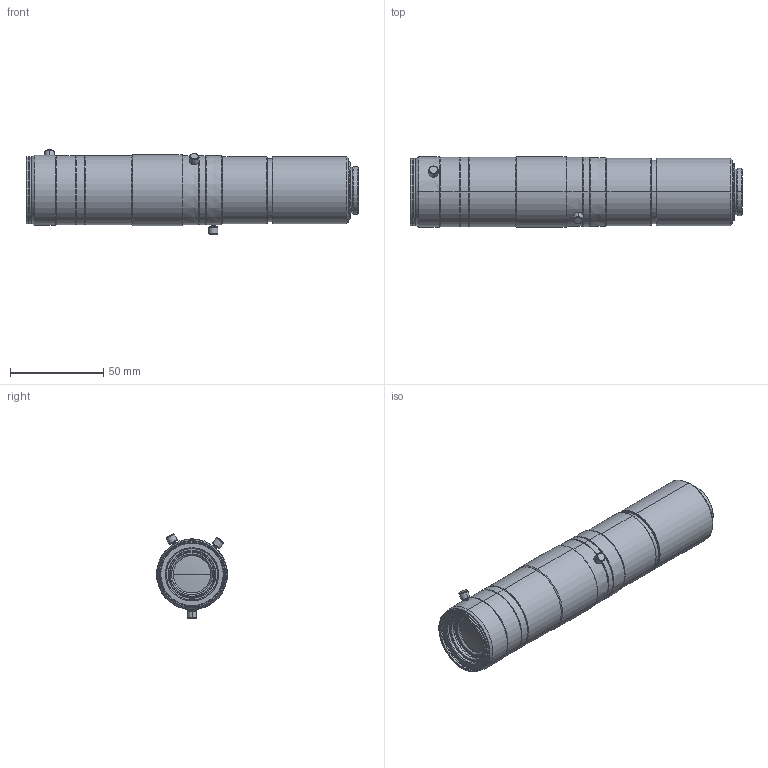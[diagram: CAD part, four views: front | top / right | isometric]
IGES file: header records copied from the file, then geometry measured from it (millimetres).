
Start section: SolidWorks IGES file using analytic representation for surfaces
Global section: file name: \\192.168.1.203\development\04 ズームレンズ\04 6x（VSZ-0745 VSZ-0530 series)\VSZ-0745&CO\3D\VSZ-0745.IGS; native system: SolidWorks 2012; preprocessor: SolidWorks 2012; author: Tsuji_vst; date: 130131.115504; units: millimetre
Bounding box: 177.85 x 38 x 45.2 mm (x, y, z)
Surface area: 32524.6 mm2 (no closed solid volume)
Topology: 0 solids, 0 shells, 229 faces, 4300 edges, 4298 vertices
Faces by surface type: revolution 194, bspline 35
